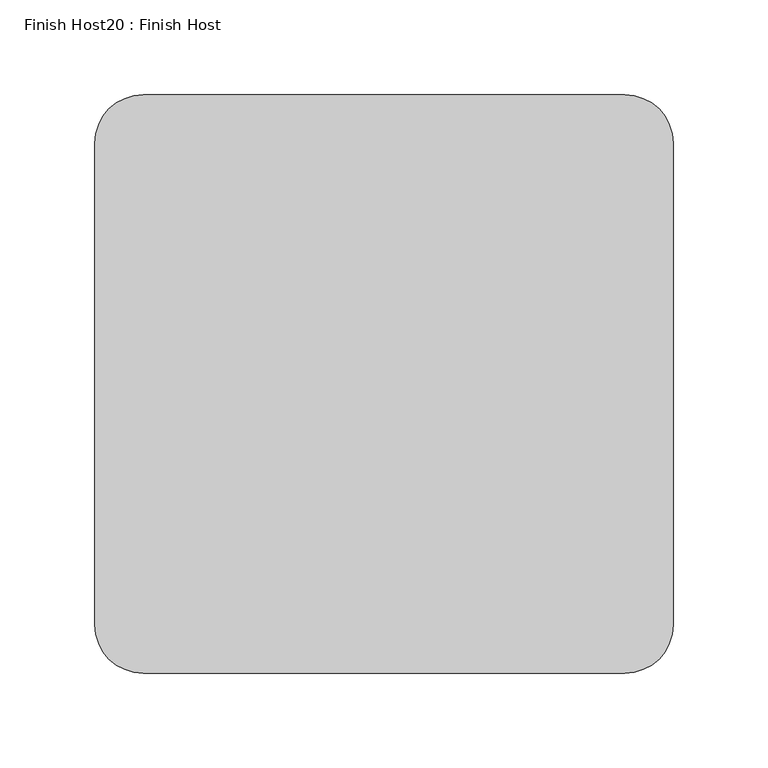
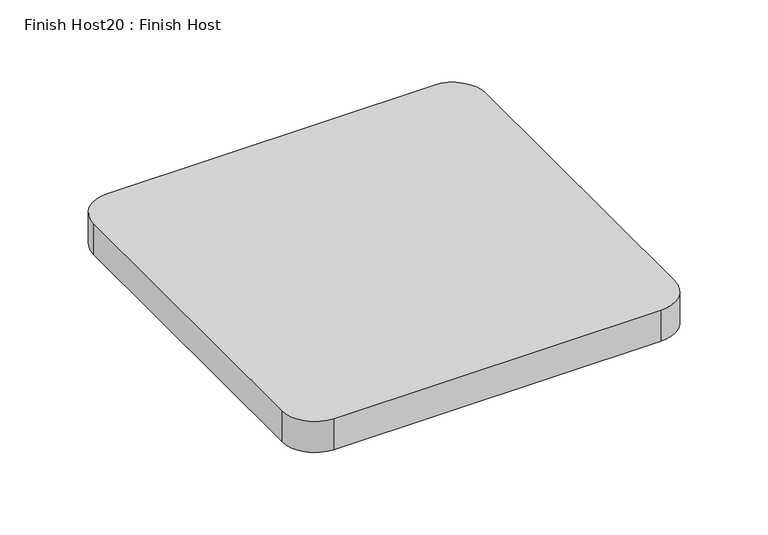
"""IFC4 building model written with IfcOpenShell, lengths in millimetres: proxy geometry, Finish Host20 : Finish Host."""

from ifc_helpers import new_model, si_unit, point, frame_2d, origin, origin_with_axes, place, context, project, spatial, polyline, circle_curve, trimmed, segment, composite_curve, outline, extrude, source, transform, mapped, element, save


def finish_host20_finish_host_8dbecde8(model_context):
    return source(origin(), model_context, "Body", "SweptSolid", [
        extrude(outline(composite_curve([segment(polyline([(3628.5649374, 1413.7667263), (3628.5649374, 1667.7667263)]), True, "CONTINUOUS"), segment(trimmed(circle_curve(frame_2d((3653.9649374, 1667.7667263)), 25.4), [point((3628.5649374, 1667.7667263))], [point((3653.9649374, 1693.1667263))], False, "CARTESIAN"), True, "CONTINUOUS"), segment(polyline([(3653.9649374, 1693.1667263), (3907.9649374, 1693.1667263)]), True, "CONTINUOUS"), segment(trimmed(circle_curve(frame_2d((3907.9649374, 1667.7667263)), 25.4), [point((3907.9649374, 1693.1667263))], [point((3933.3649374, 1667.7667263))], False, "CARTESIAN"), True, "CONTINUOUS"), segment(polyline([(3933.3649374, 1667.7667263), (3933.3649374, 1413.7667263)]), True, "CONTINUOUS"), segment(trimmed(circle_curve(frame_2d((3907.9649374, 1413.7667263)), 25.4), [point((3933.3649374, 1413.7667263))], [point((3907.9649374, 1388.3667263))], False, "CARTESIAN"), True, "CONTINUOUS"), segment(polyline([(3907.9649374, 1388.3667263), (3653.9649374, 1388.3667263)]), True, "CONTINUOUS"), segment(trimmed(circle_curve(frame_2d((3653.9649374, 1413.7667263)), 25.4), [point((3653.9649374, 1388.3667263))], [point((3628.5649374, 1413.7667263))], False, "CARTESIAN"), True, "CONTINUOUS")], self_intersect=False)), origin_with_axes(), (0.0, 0.0, 1.0), 25.4),
    ])


if __name__ == "__main__":
    model = new_model("IFC4")
    model_context = context("Model", 3, world=origin())
    ifc_project = project(units=[si_unit("LENGTHUNIT", "METRE", prefix="MILLI")], contexts=[model_context])
    site = spatial("IfcSite", under=ifc_project)
    building = spatial("IfcBuilding", under=site)
    placement = place(None, origin())
    finish_host20_finish_host_shape = finish_host20_finish_host_8dbecde8(model_context)
    element("IfcBuildingElementProxy", 1, Name="Finish Host20 : Finish Host", ObjectType="Finish Host20 : Finish Host", at=placement, inside=building, context=model_context, shape_type="MappedRepresentation", body=[
        mapped(finish_host20_finish_host_shape, transform((0.0, 0.0, 0.0), x_axis=(1.0, 0.0, 0.0), y_axis=(0.0, 1.0, 0.0), z_axis=(0.0, 0.0, 1.0))),
    ])
    save(model, "model.ifc")
